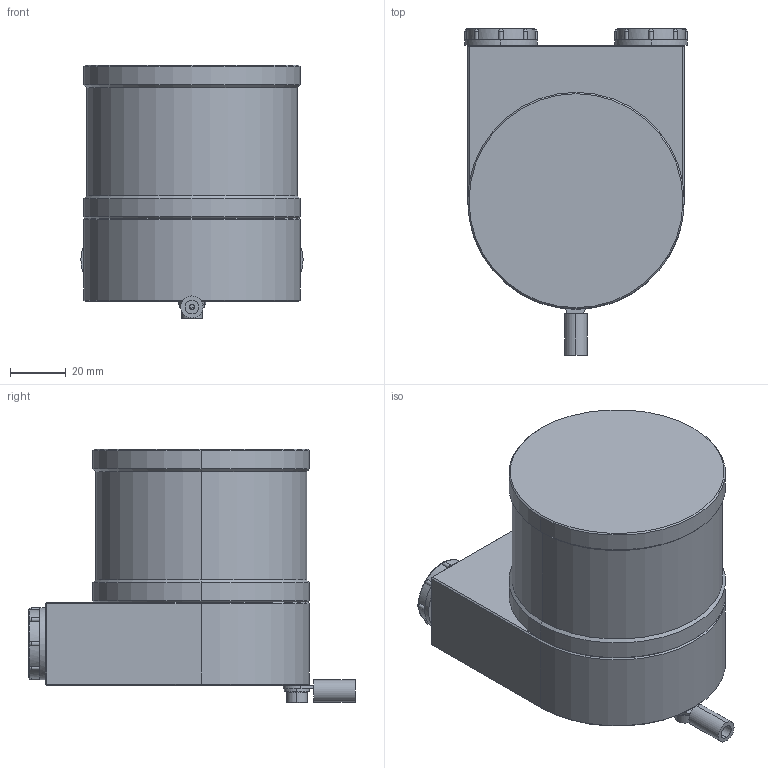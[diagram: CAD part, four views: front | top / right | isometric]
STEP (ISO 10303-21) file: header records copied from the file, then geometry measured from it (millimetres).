
FILE_DESCRIPTION (( 'STEP AP203' ), '1' );
FILE_NAME ('Drawing-OC-7-AT-550-2NM-HCC-NNN-Y-FZ-N.STEP', '2013-05-03T08:29:05', ( '' ), ( '' ), 'SwSTEP 2.0', 'SolidWorks 2006104', '' );
FILE_SCHEMA (( 'CONFIG_CONTROL_DESIGN' ));
Length unit declared in the file: millimetre
Products named in the file (1): Drawing-OC-7-AT-550-2NM-HCC-NNN-Y-FZ-N
Bounding box: 80 x 117.5 x 91.2 mm (x, y, z)
Volume: 231309.4 mm3; surface area: 83119.5 mm2
Topology: 16 solids, 22 shells, 872 faces, 2183 edges, 1378 vertices
Faces by surface type: plane 435, cylinder 189, bspline 125, cone 123
Entity records: 28598 total; most frequent: CARTESIAN_POINT 8481, ORIENTED_EDGE 4246, DIRECTION 3877, EDGE_CURVE 2123, VERTEX_POINT 1378, VECTOR 1305, LINE 1305, AXIS2_PLACEMENT_3D 1286
